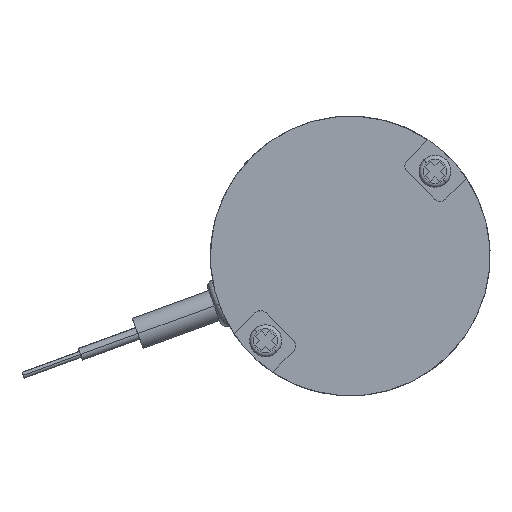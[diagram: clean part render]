
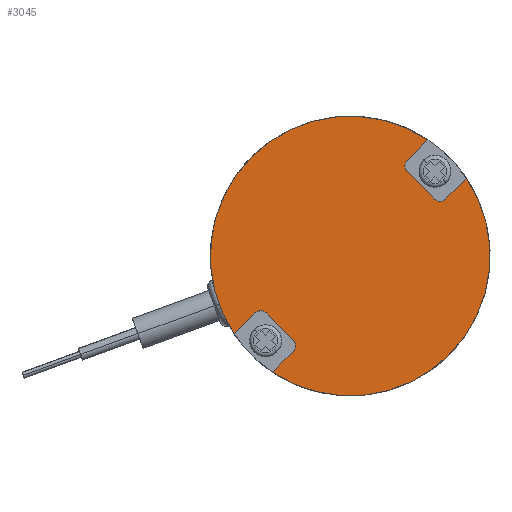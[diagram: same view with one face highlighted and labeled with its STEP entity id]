
A CAD part, left-side view. The second image highlights one B-rep face of the part: STEP entity #3045.
In plain terms, the highlighted planar face has unit normal (-1, 0, 0).
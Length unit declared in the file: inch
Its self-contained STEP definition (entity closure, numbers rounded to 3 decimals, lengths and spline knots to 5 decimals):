
#149 = CARTESIAN_POINT ( 'NONE',  ( 0., 0.4695, -0.2802 ) ) ;
#281 = VERTEX_POINT ( 'NONE', #4243 ) ;
#508 = DIRECTION ( 'NONE',  ( 0., -0.707, -0.707 ) ) ;
#563 = LINE ( 'NONE', #2190, #8730 ) ;
#706 = VECTOR ( 'NONE', #4553, 39.37008 ) ;
#773 = CIRCLE ( 'NONE', #4899, 0.6876 ) ;
#807 = PLANE ( 'NONE',  #4858 ) ;
#845 = DIRECTION ( 'NONE',  ( 0., -0.707, 0.707 ) ) ;
#864 = CARTESIAN_POINT ( 'NONE',  ( 0., 0.2802, -0.41382 ) ) ;
#870 = CARTESIAN_POINT ( 'NONE',  ( 0., 0.4695, -0.2802 ) ) ;
#929 = CIRCLE ( 'NONE', #1856, 0.6876 ) ;
#964 = VERTEX_POINT ( 'NONE', #8867 ) ;
#1034 = VECTOR ( 'NONE', #845, 39.37008 ) ;
#1244 = CARTESIAN_POINT ( 'NONE',  ( 0., 0., 0. ) ) ;
#1321 = DIRECTION ( 'NONE',  ( 0., -0.707, -0.707 ) ) ;
#1352 = CARTESIAN_POINT ( 'NONE',  ( 0., -0.41382, 0.2802 ) ) ;
#1560 = CARTESIAN_POINT ( 'NONE',  ( 0., -0.2802, 0.4695 ) ) ;
#1572 = DIRECTION ( 'NONE',  ( 0., -0.707, -0.707 ) ) ;
#1676 = EDGE_CURVE ( 'NONE', #6445, #2248, #4054, .T. ) ;
#1694 = CIRCLE ( 'NONE', #6274, 0.6876 ) ;
#1709 = DIRECTION ( 'NONE',  ( -1., 0., 0. ) ) ;
#1829 = AXIS2_PLACEMENT_3D ( 'NONE', #2716, #4190, #508 ) ;
#1856 = AXIS2_PLACEMENT_3D ( 'NONE', #8360, #6133, #5441 ) ;
#1905 = EDGE_CURVE ( 'NONE', #964, #4752, #8630, .T. ) ;
#2012 = CARTESIAN_POINT ( 'NONE',  ( 0., 0.48621, 0.48621 ) ) ;
#2190 = CARTESIAN_POINT ( 'NONE',  ( 0., 0.41382, -0.2802 ) ) ;
#2248 = VERTEX_POINT ( 'NONE', #5744 ) ;
#2250 = DIRECTION ( 'NONE',  ( 0., 0.707, 0.707 ) ) ;
#2365 = CARTESIAN_POINT ( 'NONE',  ( 0., -0.44166, 0.30804 ) ) ;
#2462 = EDGE_CURVE ( 'NONE', #5284, #6445, #2996, .T. ) ;
#2486 = CARTESIAN_POINT ( 'NONE',  ( 0., -0.30804, 0.44166 ) ) ;
#2632 = CARTESIAN_POINT ( 'NONE',  ( 0., 0.38225, -0.57156 ) ) ;
#2659 = LINE ( 'NONE', #149, #3711 ) ;
#2688 = ORIENTED_EDGE ( 'NONE', *, *, #3605, .F. ) ;
#2706 = ORIENTED_EDGE ( 'NONE', *, *, #4313, .F. ) ;
#2716 = CARTESIAN_POINT ( 'NONE',  ( 0., 0.30804, -0.44166 ) ) ;
#2725 = CIRCLE ( 'NONE', #1829, 0.03937 ) ;
#2908 = CARTESIAN_POINT ( 'NONE',  ( 0., 0., 0. ) ) ;
#2996 = LINE ( 'NONE', #6687, #1034 ) ;
#3045 = ADVANCED_FACE ( 'NONE', ( #4491 ), #807, .F. ) ;
#3096 = VERTEX_POINT ( 'NONE', #870 ) ;
#3109 = ORIENTED_EDGE ( 'NONE', *, *, #4146, .F. ) ;
#3170 = CARTESIAN_POINT ( 'NONE',  ( 0., -0.2802, 0.41382 ) ) ;
#3333 = ORIENTED_EDGE ( 'NONE', *, *, #4495, .F. ) ;
#3447 = CARTESIAN_POINT ( 'NONE',  ( 0., 0.57156, -0.38225 ) ) ;
#3502 = EDGE_CURVE ( 'NONE', #2248, #8012, #1694, .T. ) ;
#3605 = EDGE_CURVE ( 'NONE', #8012, #281, #7683, .T. ) ;
#3652 = CARTESIAN_POINT ( 'NONE',  ( 0., -0.2802, 0.41382 ) ) ;
#3711 = VECTOR ( 'NONE', #3853, 39.37008 ) ;
#3713 = VERTEX_POINT ( 'NONE', #3447 ) ;
#3853 = DIRECTION ( 'NONE',  ( 0., 0.707, -0.707 ) ) ;
#3859 = CARTESIAN_POINT ( 'NONE',  ( 0., 0., 0. ) ) ;
#3932 = DIRECTION ( 'NONE',  ( -1., 0., 0. ) ) ;
#3969 = CIRCLE ( 'NONE', #7410, 0.03937 ) ;
#4013 = ORIENTED_EDGE ( 'NONE', *, *, #2462, .F. ) ;
#4054 = CIRCLE ( 'NONE', #9420, 0.6876 ) ;
#4134 = VECTOR ( 'NONE', #4756, 39.37008 ) ;
#4144 = DIRECTION ( 'NONE',  ( 0., -0.707, -0.707 ) ) ;
#4146 = EDGE_CURVE ( 'NONE', #281, #6930, #2725, .T. ) ;
#4190 = DIRECTION ( 'NONE',  ( -1., 0., 0. ) ) ;
#4243 = CARTESIAN_POINT ( 'NONE',  ( 0., 0.2802, -0.4695 ) ) ;
#4256 = EDGE_CURVE ( 'NONE', #8344, #964, #773, .T. ) ;
#4265 = VERTEX_POINT ( 'NONE', #1352 ) ;
#4313 = EDGE_CURVE ( 'NONE', #8564, #4265, #8936, .T. ) ;
#4335 = CARTESIAN_POINT ( 'NONE',  ( 0., 0., 0. ) ) ;
#4418 = ORIENTED_EDGE ( 'NONE', *, *, #6572, .F. ) ;
#4491 = FACE_OUTER_BOUND ( 'NONE', #9271, .T. ) ;
#4495 = EDGE_CURVE ( 'NONE', #4752, #8564, #8138, .T. ) ;
#4553 = DIRECTION ( 'NONE',  ( 0., 0.707, -0.707 ) ) ;
#4669 = DIRECTION ( 'NONE',  ( 0., 0.707, 0.707 ) ) ;
#4752 = VERTEX_POINT ( 'NONE', #7848 ) ;
#4756 = DIRECTION ( 'NONE',  ( 0., -0.707, 0.707 ) ) ;
#4858 = AXIS2_PLACEMENT_3D ( 'NONE', #3859, #7496, #1572 ) ;
#4899 = AXIS2_PLACEMENT_3D ( 'NONE', #4335, #9423, #1321 ) ;
#5027 = ORIENTED_EDGE ( 'NONE', *, *, #6940, .F. ) ;
#5284 = VERTEX_POINT ( 'NONE', #6529 ) ;
#5441 = DIRECTION ( 'NONE',  ( 0., -0.707, -0.707 ) ) ;
#5563 = EDGE_CURVE ( 'NONE', #5606, #3096, #6971, .T. ) ;
#5606 = VERTEX_POINT ( 'NONE', #9170 ) ;
#5725 = DIRECTION ( 'NONE',  ( 1., 0., 0. ) ) ;
#5744 = CARTESIAN_POINT ( 'NONE',  ( 0., -0.48621, -0.48621 ) ) ;
#5805 = DIRECTION ( 'NONE',  ( 0., -0.707, -0.707 ) ) ;
#5897 = ORIENTED_EDGE ( 'NONE', *, *, #5563, .F. ) ;
#6133 = DIRECTION ( 'NONE',  ( 1., 0., 0. ) ) ;
#6274 = AXIS2_PLACEMENT_3D ( 'NONE', #2908, #8882, #8144 ) ;
#6306 = ORIENTED_EDGE ( 'NONE', *, *, #1905, .F. ) ;
#6371 = AXIS2_PLACEMENT_3D ( 'NONE', #2486, #8310, #7630 ) ;
#6445 = VERTEX_POINT ( 'NONE', #7431 ) ;
#6529 = CARTESIAN_POINT ( 'NONE',  ( 0., -0.4695, 0.2802 ) ) ;
#6572 = EDGE_CURVE ( 'NONE', #4265, #5284, #3969, .T. ) ;
#6687 = CARTESIAN_POINT ( 'NONE',  ( 0., -0.4695, 0.2802 ) ) ;
#6930 = VERTEX_POINT ( 'NONE', #864 ) ;
#6937 = EDGE_CURVE ( 'NONE', #3096, #3713, #2659, .T. ) ;
#6940 = EDGE_CURVE ( 'NONE', #3713, #8344, #929, .T. ) ;
#6971 = CIRCLE ( 'NONE', #8577, 0.03937 ) ;
#7078 = ORIENTED_EDGE ( 'NONE', *, *, #1676, .F. ) ;
#7331 = ORIENTED_EDGE ( 'NONE', *, *, #4256, .F. ) ;
#7334 = VECTOR ( 'NONE', #5805, 39.37008 ) ;
#7410 = AXIS2_PLACEMENT_3D ( 'NONE', #2365, #1709, #9108 ) ;
#7431 = CARTESIAN_POINT ( 'NONE',  ( 0., -0.57156, 0.38225 ) ) ;
#7496 = DIRECTION ( 'NONE',  ( 1., 0., 0. ) ) ;
#7599 = ORIENTED_EDGE ( 'NONE', *, *, #3502, .F. ) ;
#7630 = DIRECTION ( 'NONE',  ( 0., -0.707, -0.707 ) ) ;
#7683 = LINE ( 'NONE', #9130, #4134 ) ;
#7848 = CARTESIAN_POINT ( 'NONE',  ( 0., -0.2802, 0.4695 ) ) ;
#8012 = VERTEX_POINT ( 'NONE', #2632 ) ;
#8138 = CIRCLE ( 'NONE', #6371, 0.03937 ) ;
#8144 = DIRECTION ( 'NONE',  ( 0., -0.707, -0.707 ) ) ;
#8310 = DIRECTION ( 'NONE',  ( -1., 0., 0. ) ) ;
#8344 = VERTEX_POINT ( 'NONE', #2012 ) ;
#8360 = CARTESIAN_POINT ( 'NONE',  ( 0., 0., 0. ) ) ;
#8564 = VERTEX_POINT ( 'NONE', #3170 ) ;
#8577 = AXIS2_PLACEMENT_3D ( 'NONE', #8919, #3932, #4669 ) ;
#8630 = LINE ( 'NONE', #1560, #706 ) ;
#8664 = EDGE_CURVE ( 'NONE', #6930, #5606, #563, .T. ) ;
#8730 = VECTOR ( 'NONE', #2250, 39.37008 ) ;
#8867 = CARTESIAN_POINT ( 'NONE',  ( 0., -0.38225, 0.57156 ) ) ;
#8882 = DIRECTION ( 'NONE',  ( 1., 0., 0. ) ) ;
#8919 = CARTESIAN_POINT ( 'NONE',  ( 0., 0.44166, -0.30804 ) ) ;
#8936 = LINE ( 'NONE', #3652, #7334 ) ;
#9067 = ORIENTED_EDGE ( 'NONE', *, *, #6937, .F. ) ;
#9108 = DIRECTION ( 'NONE',  ( 0., 0.707, 0.707 ) ) ;
#9130 = CARTESIAN_POINT ( 'NONE',  ( 0., 0.2802, -0.4695 ) ) ;
#9170 = CARTESIAN_POINT ( 'NONE',  ( 0., 0.41382, -0.2802 ) ) ;
#9271 = EDGE_LOOP ( 'NONE', ( #3333, #6306, #7331, #5027, #9067, #5897, #9317, #3109, #2688, #7599, #7078, #4013, #4418, #2706 ) ) ;
#9317 = ORIENTED_EDGE ( 'NONE', *, *, #8664, .F. ) ;
#9420 = AXIS2_PLACEMENT_3D ( 'NONE', #1244, #5725, #4144 ) ;
#9423 = DIRECTION ( 'NONE',  ( 1., 0., 0. ) ) ;
